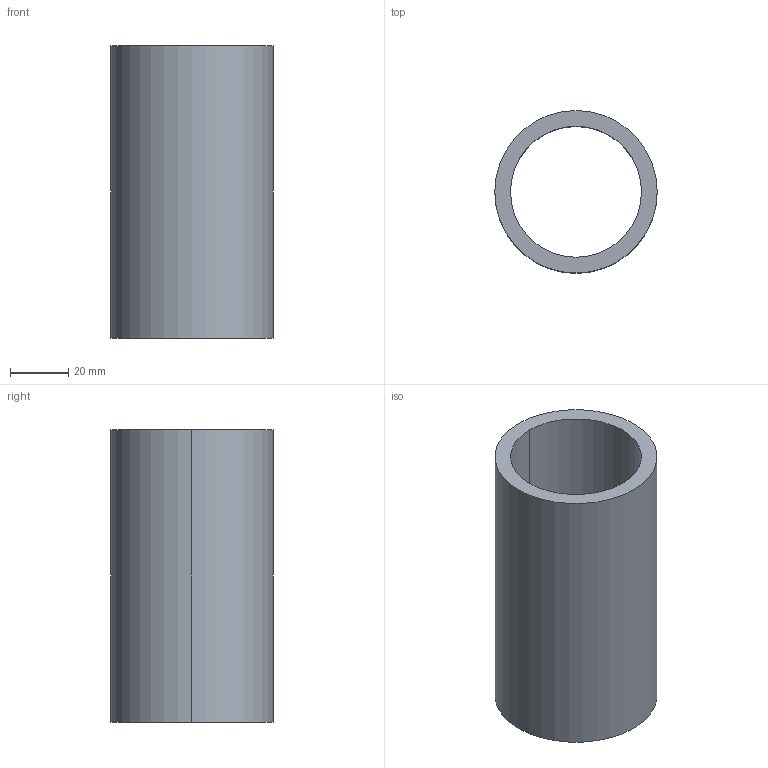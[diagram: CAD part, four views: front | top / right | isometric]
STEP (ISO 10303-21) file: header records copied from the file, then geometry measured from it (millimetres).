
FILE_DESCRIPTION (( 'STEP AP203' ), '1' );
FILE_NAME ('19-0408-28_outokumpu.step', '2015-08-11T09:42:36', ( '' ), ( '' ), 'SwSTEP 2.0', 'SolidWorks 2008', '' );
FILE_SCHEMA (( 'CONFIG_CONTROL_DESIGN' ));
Length unit declared in the file: millimetre
Products named in the file (1): 19-0408-28_outokumpu
Bounding box: 55.6 x 55.6 x 100 mm (x, y, z)
Volume: 80182.8 mm3; surface area: 33269 mm2
Topology: 1 solids, 1 shells, 12 faces, 26 edges, 16 vertices
Faces by surface type: cylinder 6, cone 4, plane 2
Entity records: 415 total; most frequent: DIRECTION 68, CARTESIAN_POINT 55, ORIENTED_EDGE 52, AXIS2_PLACEMENT_3D 29, EDGE_CURVE 26, CIRCLE 16, VERTEX_POINT 16, EDGE_LOOP 14
